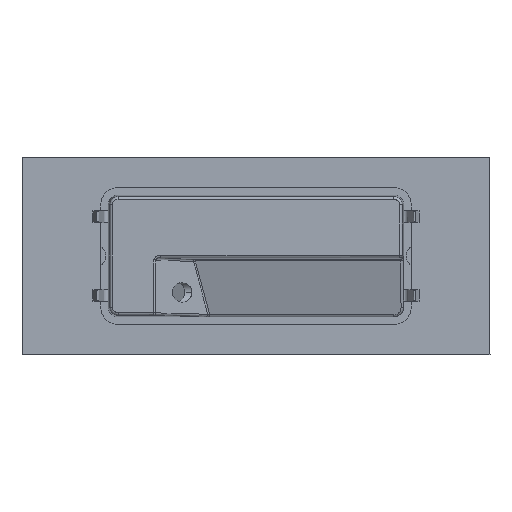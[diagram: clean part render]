
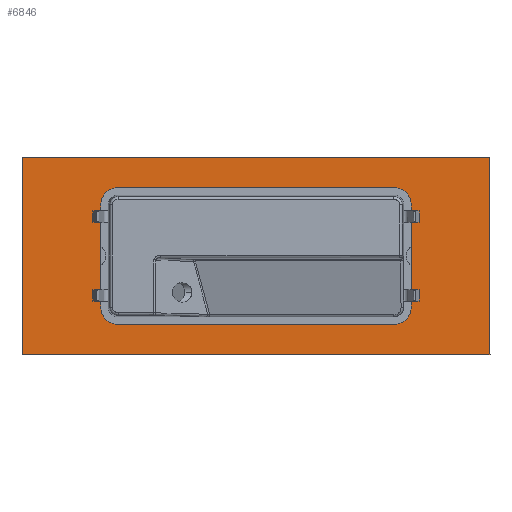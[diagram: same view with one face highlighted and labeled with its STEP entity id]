
A CAD part, front view. The second image highlights one B-rep face of the part: STEP entity #6846.
In plain terms, the highlighted planar face has unit normal (0, -1, 0) as drawn and (0, 0, -1) by its records, which use the part's own axes.
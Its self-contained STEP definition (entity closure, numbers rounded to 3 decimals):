
#39=FACE_BOUND('',#1112,.T.);
#221=PLANE('',#7347);
#713=FACE_OUTER_BOUND('',#1111,.T.);
#1111=EDGE_LOOP('',(#6240,#6241,#6242,#6243));
#1112=EDGE_LOOP('',(#6244,#6245,#6246,#6247));
#1949=LINE('',#14194,#2565);
#1953=LINE('',#14201,#2569);
#1956=LINE('',#14207,#2572);
#1958=LINE('',#14210,#2574);
#1961=LINE('',#14218,#2577);
#1965=LINE('',#14225,#2581);
#1968=LINE('',#14231,#2584);
#1970=LINE('',#14234,#2586);
#2565=VECTOR('',#8861,304.8);
#2569=VECTOR('',#8867,304.8);
#2572=VECTOR('',#8872,304.8);
#2574=VECTOR('',#8876,304.8);
#2577=VECTOR('',#8881,304.8);
#2581=VECTOR('',#8887,304.8);
#2584=VECTOR('',#8892,304.8);
#2586=VECTOR('',#8896,304.8);
#3295=VERTEX_POINT('',#14191);
#3296=VERTEX_POINT('',#14193);
#3298=VERTEX_POINT('',#14199);
#3300=VERTEX_POINT('',#14205);
#3303=VERTEX_POINT('',#14215);
#3304=VERTEX_POINT('',#14217);
#3306=VERTEX_POINT('',#14223);
#3308=VERTEX_POINT('',#14229);
#4287=EDGE_CURVE('',#3296,#3295,#1949,.T.);
#4291=EDGE_CURVE('',#3295,#3298,#1953,.T.);
#4294=EDGE_CURVE('',#3298,#3300,#1956,.T.);
#4296=EDGE_CURVE('',#3300,#3296,#1958,.T.);
#4299=EDGE_CURVE('',#3304,#3303,#1961,.T.);
#4303=EDGE_CURVE('',#3303,#3306,#1965,.T.);
#4306=EDGE_CURVE('',#3306,#3308,#1968,.T.);
#4308=EDGE_CURVE('',#3308,#3304,#1970,.T.);
#6240=ORIENTED_EDGE('',*,*,#4299,.T.);
#6241=ORIENTED_EDGE('',*,*,#4303,.T.);
#6242=ORIENTED_EDGE('',*,*,#4306,.T.);
#6243=ORIENTED_EDGE('',*,*,#4308,.T.);
#6244=ORIENTED_EDGE('',*,*,#4287,.T.);
#6245=ORIENTED_EDGE('',*,*,#4291,.T.);
#6246=ORIENTED_EDGE('',*,*,#4294,.T.);
#6247=ORIENTED_EDGE('',*,*,#4296,.T.);
#6846=ADVANCED_FACE('',(#713,#39),#221,.T.);
#7347=AXIS2_PLACEMENT_3D('',#14235,#8897,#8898);
#8861=DIRECTION('',(-1.,0.,0.));
#8867=DIRECTION('',(0.,-1.,0.));
#8872=DIRECTION('',(1.,0.,0.));
#8876=DIRECTION('',(0.,1.,0.));
#8881=DIRECTION('',(0.,-1.,0.));
#8887=DIRECTION('',(-1.,0.,0.));
#8892=DIRECTION('',(0.,1.,0.));
#8896=DIRECTION('',(1.,0.,0.));
#8897=DIRECTION('center_axis',(0.,0.,-1.));
#8898=DIRECTION('ref_axis',(1.,0.,0.));
#14191=CARTESIAN_POINT('',(-55.5,15.,-0.313));
#14193=CARTESIAN_POINT('',(55.5,15.,-0.313));
#14194=CARTESIAN_POINT('',(55.5,15.,-0.313));
#14199=CARTESIAN_POINT('',(-55.5,-20.,-0.313));
#14201=CARTESIAN_POINT('',(-55.5,15.,-0.313));
#14205=CARTESIAN_POINT('',(55.5,-20.,-0.313));
#14207=CARTESIAN_POINT('',(-55.5,-20.,-0.313));
#14210=CARTESIAN_POINT('',(55.5,-20.,-0.313));
#14215=CARTESIAN_POINT('',(95.,-40.,-0.313));
#14217=CARTESIAN_POINT('',(95.,40.,-0.313));
#14218=CARTESIAN_POINT('',(95.,40.,-0.313));
#14223=CARTESIAN_POINT('',(-95.,-40.,-0.313));
#14225=CARTESIAN_POINT('',(95.,-40.,-0.313));
#14229=CARTESIAN_POINT('',(-95.,40.,-0.313));
#14231=CARTESIAN_POINT('',(-95.,-40.,-0.313));
#14234=CARTESIAN_POINT('',(-95.,40.,-0.313));
#14235=CARTESIAN_POINT('Origin',(-95.,40.,-0.313));
